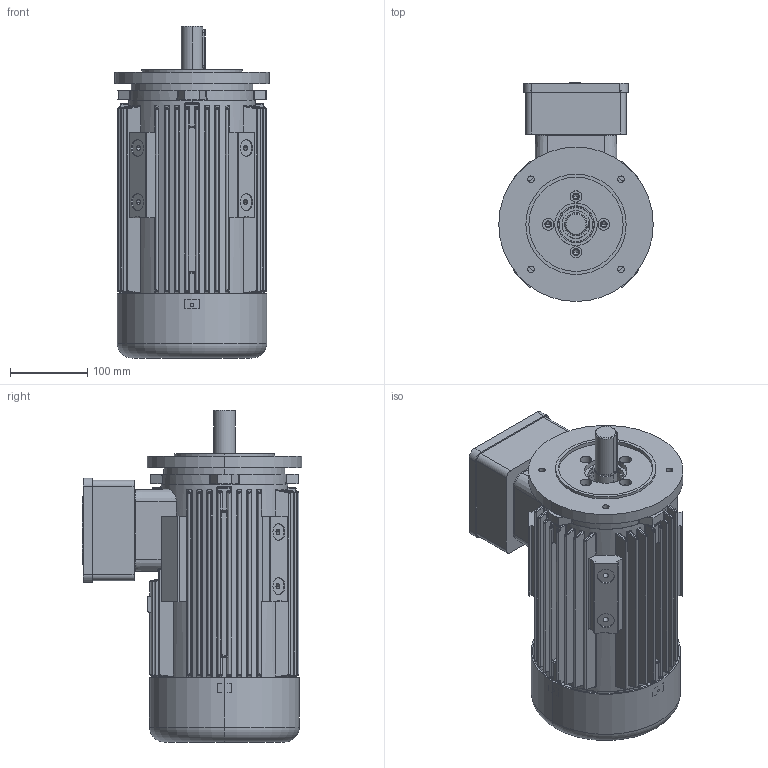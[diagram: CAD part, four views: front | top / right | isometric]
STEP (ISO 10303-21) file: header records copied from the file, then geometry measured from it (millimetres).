
FILE_DESCRIPTION (( 'STEP AP214' ), '1' );
FILE_NAME ('20.18365-D 7AZ 100 B14 large STANDK.STEP', '2018-04-10T12:35:18', ( '' ), ( '' ), 'SwSTEP 2.0', 'SolidWorks 2017', '' );
FILE_SCHEMA (( 'AUTOMOTIVE_DESIGN' ));
Length unit declared in the file: millimetre
Products named in the file (1): 20.18365-D 7AZ 100 B14 large STANDK
Bounding box: 200 x 283.8 x 430 mm (x, y, z)
Volume: 3669890.6 mm3; surface area: 1054469.5 mm2
Topology: 10 solids, 10 shells, 2111 faces, 5169 edges, 3014 vertices
Faces by surface type: cylinder 759, bspline 666, plane 489, cone 94, torus 81, sphere 22
Entity records: 107106 total; most frequent: CARTESIAN_POINT 40831, ORIENTED_EDGE 9978, DIRECTION 8096, EDGE_CURVE 4989, AXIS2_PLACEMENT_3D 3174, VERTEX_POINT 3014, EDGE_LOOP 2307, ADVANCED_FACE 2111
